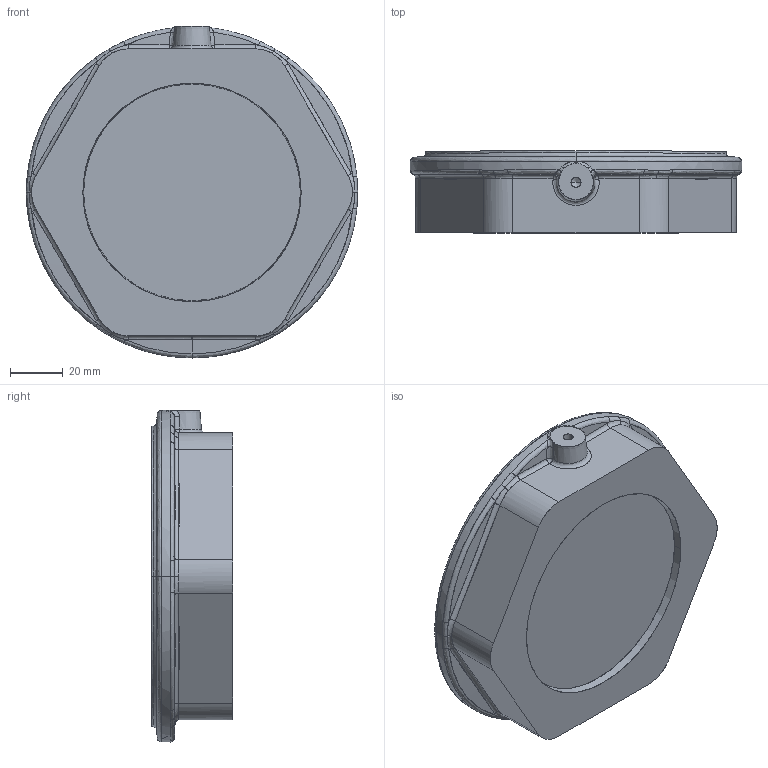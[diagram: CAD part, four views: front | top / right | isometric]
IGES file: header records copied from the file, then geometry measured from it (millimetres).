
Start section: SolidWorks IGES file using analytic representation for surfaces
Global section: file name: C:\Users\kprahl\Desktop\CobraMax Models for Website\CobraMax IGES Files\Base - 3 Inch BSPT.IGS; native system: SolidWorks 2019; preprocessor: SolidWorks 2019; author: kprahl; date: 210412.164859; units: inch
Bounding box: 125.48 x 30.91 x 125.76 mm (x, y, z)
Surface area: 36075 mm2 (no closed solid volume)
Topology: 0 solids, 0 shells, 104 faces, 1112 edges, 1108 vertices
Faces by surface type: bspline 75, revolution 29
